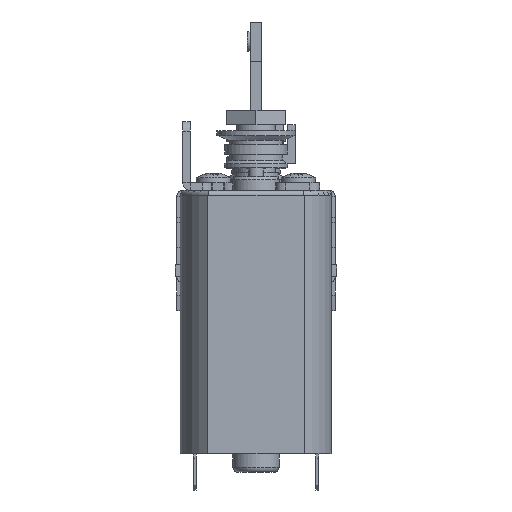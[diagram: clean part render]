
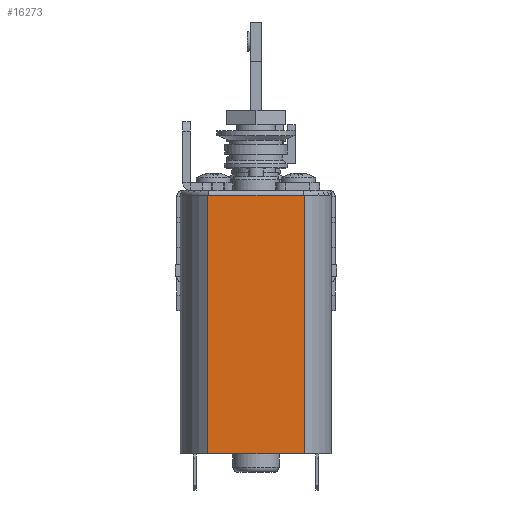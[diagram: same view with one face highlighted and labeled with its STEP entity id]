
A CAD part, left-side view. The second image highlights one B-rep face of the part: STEP entity #16273.
In plain terms, the highlighted planar face has unit normal (-1, 0, 0).
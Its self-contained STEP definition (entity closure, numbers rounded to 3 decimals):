
#7449 = CYLINDRICAL_SURFACE('',#7450,0.5);
#7450 = AXIS2_PLACEMENT_3D('',#7451,#7452,#7453);
#7451 = CARTESIAN_POINT('',(-80.,-4.905,-8.7));
#7452 = DIRECTION('',(0.,1.,0.));
#7453 = DIRECTION('',(0.,0.,1.));
#12510 = VERTEX_POINT('',#12511);
#12511 = CARTESIAN_POINT('',(-80.5,-4.905,-8.7));
#12594 = CYLINDRICAL_SURFACE('',#12595,7.75);
#12595 = AXIS2_PLACEMENT_3D('',#12596,#12597,#12598);
#12596 = CARTESIAN_POINT('',(-74.5,0.,-8.2));
#12597 = DIRECTION('',(0.,0.,1.));
#12598 = DIRECTION('',(0.,-1.,0.));
#12632 = EDGE_CURVE('',#12510,#12633,#12635,.T.);
#12633 = VERTEX_POINT('',#12634);
#12634 = CARTESIAN_POINT('',(-80.5,4.905,-8.7));
#12635 = SURFACE_CURVE('',#12636,(#12640,#12647),.PCURVE_S1.);
#12636 = LINE('',#12637,#12638);
#12637 = CARTESIAN_POINT('',(-80.5,-4.905,-8.7));
#12638 = VECTOR('',#12639,1.);
#12639 = DIRECTION('',(0.,1.,0.));
#12640 = PCURVE('',#7449,#12641);
#12641 = DEFINITIONAL_REPRESENTATION('',(#12642),#12646);
#12642 = LINE('',#12643,#12644);
#12643 = CARTESIAN_POINT('',(-1.571,0.));
#12644 = VECTOR('',#12645,1.);
#12645 = DIRECTION('',(-0.,1.));
#12646 = ( GEOMETRIC_REPRESENTATION_CONTEXT(2) 
PARAMETRIC_REPRESENTATION_CONTEXT() REPRESENTATION_CONTEXT('2D SPACE',''
  ) );
#12647 = PCURVE('',#12648,#12653);
#12648 = PLANE('',#12649);
#12649 = AXIS2_PLACEMENT_3D('',#12650,#12651,#12652);
#12650 = CARTESIAN_POINT('',(-80.5,12.,-41.2));
#12651 = DIRECTION('',(1.,0.,0.));
#12652 = DIRECTION('',(0.,0.,1.));
#12653 = DEFINITIONAL_REPRESENTATION('',(#12654),#12658);
#12654 = LINE('',#12655,#12656);
#12655 = CARTESIAN_POINT('',(32.5,16.905));
#12656 = VECTOR('',#12657,1.);
#12657 = DIRECTION('',(0.,-1.));
#12658 = ( GEOMETRIC_REPRESENTATION_CONTEXT(2) 
PARAMETRIC_REPRESENTATION_CONTEXT() REPRESENTATION_CONTEXT('2D SPACE',''
  ) );
#14332 = CYLINDRICAL_SURFACE('',#14333,7.75);
#14333 = AXIS2_PLACEMENT_3D('',#14334,#14335,#14336);
#14334 = CARTESIAN_POINT('',(-74.5,0.,-8.2));
#14335 = DIRECTION('',(0.,0.,1.));
#14336 = DIRECTION('',(0.,-1.,0.));
#16226 = EDGE_CURVE('',#16227,#12510,#16229,.T.);
#16227 = VERTEX_POINT('',#16228);
#16228 = CARTESIAN_POINT('',(-80.5,-4.905,-35.1));
#16229 = SURFACE_CURVE('',#16230,(#16234,#16240),.PCURVE_S1.);
#16230 = LINE('',#16231,#16232);
#16231 = CARTESIAN_POINT('',(-80.5,-4.905,-8.2));
#16232 = VECTOR('',#16233,1.);
#16233 = DIRECTION('',(0.,0.,1.));
#16234 = PCURVE('',#12594,#16235);
#16235 = DEFINITIONAL_REPRESENTATION('',(#16236),#16239);
#16236 = B_SPLINE_CURVE_WITH_KNOTS('',1,(#16237,#16238),.UNSPECIFIED.,
  .F.,.F.,(2,2),(-26.9,0.),.PIECEWISE_BEZIER_KNOTS.);
#16237 = CARTESIAN_POINT('',(5.398,-26.9));
#16238 = CARTESIAN_POINT('',(5.398,0.));
#16239 = ( GEOMETRIC_REPRESENTATION_CONTEXT(2) 
PARAMETRIC_REPRESENTATION_CONTEXT() REPRESENTATION_CONTEXT('2D SPACE',''
  ) );
#16240 = PCURVE('',#12648,#16241);
#16241 = DEFINITIONAL_REPRESENTATION('',(#16242),#16245);
#16242 = B_SPLINE_CURVE_WITH_KNOTS('',1,(#16243,#16244),.UNSPECIFIED.,
  .F.,.F.,(2,2),(-26.9,0.),.PIECEWISE_BEZIER_KNOTS.);
#16243 = CARTESIAN_POINT('',(6.1,16.905));
#16244 = CARTESIAN_POINT('',(33.,16.905));
#16245 = ( GEOMETRIC_REPRESENTATION_CONTEXT(2) 
PARAMETRIC_REPRESENTATION_CONTEXT() REPRESENTATION_CONTEXT('2D SPACE',''
  ) );
#16262 = PLANE('',#16263);
#16263 = AXIS2_PLACEMENT_3D('',#16264,#16265,#16266);
#16264 = CARTESIAN_POINT('',(-74.5,0.,-35.1));
#16265 = DIRECTION('',(0.,0.,1.));
#16266 = DIRECTION('',(0.,-1.,0.));
#16273 = ADVANCED_FACE('',(#16274),#12648,.F.);
#16274 = FACE_BOUND('',#16275,.F.);
#16275 = EDGE_LOOP('',(#16276,#16297,#16298,#16299));
#16276 = ORIENTED_EDGE('',*,*,#16277,.T.);
#16277 = EDGE_CURVE('',#16278,#12633,#16280,.T.);
#16278 = VERTEX_POINT('',#16279);
#16279 = CARTESIAN_POINT('',(-80.5,4.905,-35.1));
#16280 = SURFACE_CURVE('',#16281,(#16285,#16291),.PCURVE_S1.);
#16281 = LINE('',#16282,#16283);
#16282 = CARTESIAN_POINT('',(-80.5,4.905,-8.2));
#16283 = VECTOR('',#16284,1.);
#16284 = DIRECTION('',(0.,0.,1.));
#16285 = PCURVE('',#12648,#16286);
#16286 = DEFINITIONAL_REPRESENTATION('',(#16287),#16290);
#16287 = B_SPLINE_CURVE_WITH_KNOTS('',1,(#16288,#16289),.UNSPECIFIED.,
  .F.,.F.,(2,2),(-26.9,0.),.PIECEWISE_BEZIER_KNOTS.);
#16288 = CARTESIAN_POINT('',(6.1,7.095));
#16289 = CARTESIAN_POINT('',(33.,7.095));
#16290 = ( GEOMETRIC_REPRESENTATION_CONTEXT(2) 
PARAMETRIC_REPRESENTATION_CONTEXT() REPRESENTATION_CONTEXT('2D SPACE',''
  ) );
#16291 = PCURVE('',#14332,#16292);
#16292 = DEFINITIONAL_REPRESENTATION('',(#16293),#16296);
#16293 = B_SPLINE_CURVE_WITH_KNOTS('',1,(#16294,#16295),.UNSPECIFIED.,
  .F.,.F.,(2,2),(-26.9,0.),.PIECEWISE_BEZIER_KNOTS.);
#16294 = CARTESIAN_POINT('',(4.027,-26.9));
#16295 = CARTESIAN_POINT('',(4.027,0.));
#16296 = ( GEOMETRIC_REPRESENTATION_CONTEXT(2) 
PARAMETRIC_REPRESENTATION_CONTEXT() REPRESENTATION_CONTEXT('2D SPACE',''
  ) );
#16297 = ORIENTED_EDGE('',*,*,#12632,.F.);
#16298 = ORIENTED_EDGE('',*,*,#16226,.F.);
#16299 = ORIENTED_EDGE('',*,*,#16300,.T.);
#16300 = EDGE_CURVE('',#16227,#16278,#16301,.T.);
#16301 = SURFACE_CURVE('',#16302,(#16306,#16312),.PCURVE_S1.);
#16302 = LINE('',#16303,#16304);
#16303 = CARTESIAN_POINT('',(-80.5,6.,-35.1));
#16304 = VECTOR('',#16305,1.);
#16305 = DIRECTION('',(0.,1.,0.));
#16306 = PCURVE('',#12648,#16307);
#16307 = DEFINITIONAL_REPRESENTATION('',(#16308),#16311);
#16308 = B_SPLINE_CURVE_WITH_KNOTS('',1,(#16309,#16310),.UNSPECIFIED.,
  .F.,.F.,(2,2),(-13.75,1.75),.PIECEWISE_BEZIER_KNOTS.);
#16309 = CARTESIAN_POINT('',(6.1,19.75));
#16310 = CARTESIAN_POINT('',(6.1,4.25));
#16311 = ( GEOMETRIC_REPRESENTATION_CONTEXT(2) 
PARAMETRIC_REPRESENTATION_CONTEXT() REPRESENTATION_CONTEXT('2D SPACE',''
  ) );
#16312 = PCURVE('',#16262,#16313);
#16313 = DEFINITIONAL_REPRESENTATION('',(#16314),#16317);
#16314 = B_SPLINE_CURVE_WITH_KNOTS('',1,(#16315,#16316),.UNSPECIFIED.,
  .F.,.F.,(2,2),(-13.75,1.75),.PIECEWISE_BEZIER_KNOTS.);
#16315 = CARTESIAN_POINT('',(7.75,-6.));
#16316 = CARTESIAN_POINT('',(-7.75,-6.));
#16317 = ( GEOMETRIC_REPRESENTATION_CONTEXT(2) 
PARAMETRIC_REPRESENTATION_CONTEXT() REPRESENTATION_CONTEXT('2D SPACE',''
  ) );
